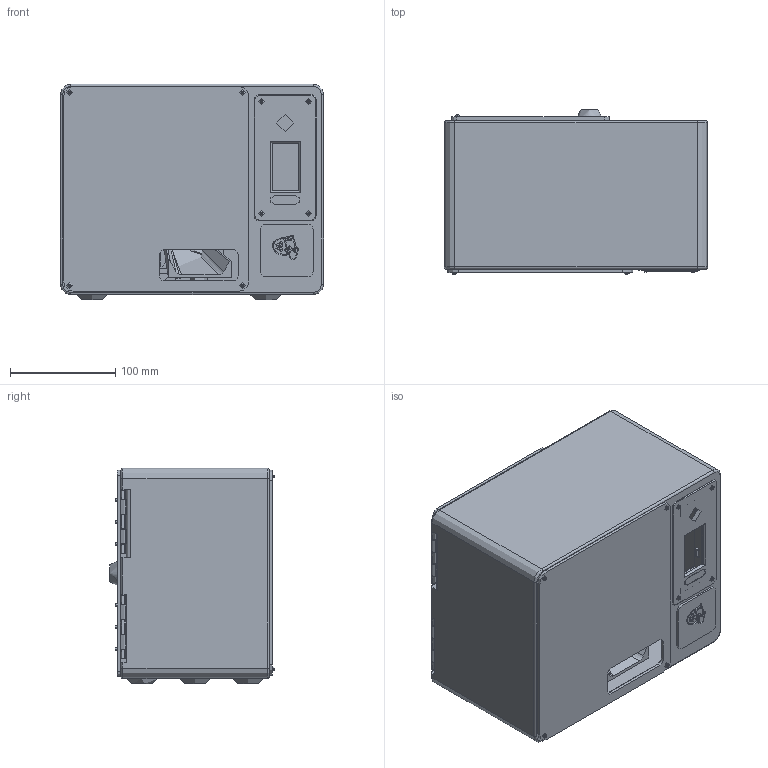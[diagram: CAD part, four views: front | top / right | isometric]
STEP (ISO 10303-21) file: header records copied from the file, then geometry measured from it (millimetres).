
FILE_DESCRIPTION(('FreeCAD Model'),'2;1');
FILE_NAME('Open CASCADE Shape Model','2026-05-27T17:37:40',('Author'),( ''),'Open CASCADE STEP processor 7.8','FreeCAD','Unknown');
FILE_SCHEMA(('AUTOMOTIVE_DESIGN { 1 0 10303 214 1 1 1 1 }'));
Length unit declared in the file: millimetre
Products named in the file (33): plebtap_coin_machine; Assembly; Gehaeuse; Spendergrundplatte; coinschieber; Lagerstock; Coinschiebeachse; sockelplatte; coindraht; Coinzwischenhebel; Sevo_mg996r; ServohebelDoppelt; Verbindunghebel-coinaut; 608-Bearing; Front-ZapBox; LED-Bel; NFC Platine; Scharnier 1; Scharnier 2; Ruekseitecoinomat; Tuercoinomat; Briefkastenschloss; X-Achse; XY-Ebene; M3x6-Schraube; M3x50-Schraube; M4-Mutter; M4x6-Schraube; M3x4-Schraube; ST3.5x9.5-Schraube; M3x10-Schraube; M3x12-Schraube; Open CASCADE STEP translator 7.8 1.77
Assembly tree (102 placements, depth 3):
  plebtap_coin_machine
    Assembly
      Gehaeuse
      Spendergrundplatte
      coinschieber
      Lagerstock
      Coinschiebeachse
      sockelplatte
      coindraht  x3
      Coinzwischenhebel
      Sevo_mg996r
      ServohebelDoppelt
      Verbindunghebel-coinaut
      608-Bearing  x2
      Front-ZapBox
      LED-Bel
      NFC Platine
      Scharnier 1  x2
      Scharnier 2  x2
      Ruekseitecoinomat
      Tuercoinomat
      Briefkastenschloss
    X-Achse  x3
    XY-Ebene  x3
    Gehaeuse
    Spendergrundplatte
    M3x6-Schraube  x30
    coinschieber
    Lagerstock
    Coinschiebeachse
    M3x50-Schraube
    M4-Mutter
    sockelplatte
    coindraht  x3
    Coinzwischenhebel
    Sevo_mg996r
    M4x6-Schraube  x4
    ServohebelDoppelt
    M3x4-Schraube
    ST3.5x9.5-Schraube
    Verbindunghebel-coinaut
    608-Bearing  x2
    Front-ZapBox
    M3x10-Schraube  x4
    LED-Bel
    M3x12-Schraube  x2
    NFC Platine
    Scharnier 1  x2
    Scharnier 2  x2
    Ruekseitecoinomat
    Tuercoinomat
    Briefkastenschloss
    Open CASCADE STEP translator 7.8 1.77
Bounding box: 250 x 156.15 x 205 mm (x, y, z)
Volume: 2048038.6 mm3; surface area: 1282262.6 mm2
Topology: 94 solids, 94 shells, 3335 faces, 8543 edges, 5555 vertices
Faces by surface type: plane 1713, cylinder 820, bspline 428, cone 210, torus 119, sphere 44, revolution 1
Full cylindrical faces by diameter (mm): 1 x8, 2 x12, 2.3 x30, 2.5 x26, 2.8 x34, 3 x55, 3.3 x1, 3.4 x8, 3.5 x25, 3.6 x8, 4 x8, 4.3 x2, 4.533 x1, 5 x8, 5.5 x1, 6 x8, 6.993 x1, 7 x4, 7.5 x1, 7.9 x4, 8 x8, 8.5 x4, 10 x14, 10.5 x2, 12 x4, 12.839 x8, 13 x4, 16.1 x2, 16.314 x8, 22 x6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
Entity records: 104379 total; most frequent: CARTESIAN_POINT 30430, DIRECTION 12807, LINE 7640, VECTOR 7640, ORIENTED_EDGE 7370, PCURVE 7370, DEFINITIONAL_REPRESENTATION 7370, EDGE_CURVE 3685
